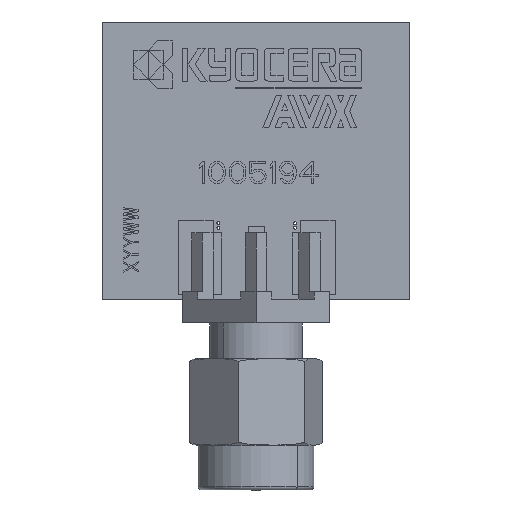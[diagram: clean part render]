
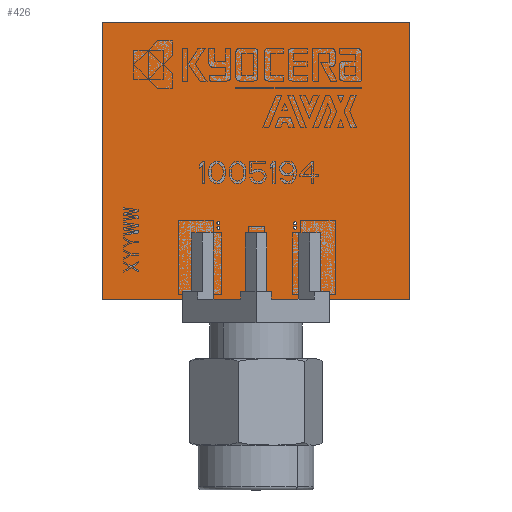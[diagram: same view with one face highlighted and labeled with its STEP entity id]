
A CAD part, top view. The second image highlights one B-rep face of the part: STEP entity #426.
In plain terms, the highlighted planar face has unit normal (0, 0, 1).
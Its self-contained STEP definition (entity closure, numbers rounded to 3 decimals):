
#116=DIRECTION('',(0.,1.,0.));
#117=VECTOR('',#116,18.6);
#118=CARTESIAN_POINT('',(-10.3,-9.3,0.));
#119=LINE('',#118,#117);
#123=DIRECTION('',(1.,0.,0.));
#124=VECTOR('',#123,20.6);
#125=CARTESIAN_POINT('',(-10.3,9.3,0.));
#126=LINE('',#125,#124);
#130=DIRECTION('',(0.,-1.,0.));
#131=VECTOR('',#130,18.6);
#132=CARTESIAN_POINT('',(10.3,9.3,0.));
#133=LINE('',#132,#131);
#137=DIRECTION('',(-1.,0.,0.));
#138=VECTOR('',#137,20.6);
#139=CARTESIAN_POINT('',(10.3,-9.3,0.));
#140=LINE('',#139,#138);
#144=CARTESIAN_POINT('',(-2.52,-4.2,0.));
#145=DIRECTION('',(0.,0.,1.));
#146=DIRECTION('',(1.,0.,0.));
#147=AXIS2_PLACEMENT_3D('',#144,#145,#146);
#152=CARTESIAN_POINT('',(-2.52,-4.2,0.));
#153=DIRECTION('',(0.,0.,1.));
#154=DIRECTION('',(-1.,0.,0.));
#155=AXIS2_PLACEMENT_3D('',#152,#153,#154);
#160=CARTESIAN_POINT('',(-2.52,-4.5,0.));
#161=DIRECTION('',(0.,0.,1.));
#162=DIRECTION('',(1.,0.,0.));
#163=AXIS2_PLACEMENT_3D('',#160,#161,#162);
#168=CARTESIAN_POINT('',(-2.52,-4.5,0.));
#169=DIRECTION('',(0.,0.,1.));
#170=DIRECTION('',(-1.,0.,0.));
#171=AXIS2_PLACEMENT_3D('',#168,#169,#170);
#176=CARTESIAN_POINT('',(2.62,-4.2,0.));
#177=DIRECTION('',(0.,0.,1.));
#178=DIRECTION('',(1.,0.,0.));
#179=AXIS2_PLACEMENT_3D('',#176,#177,#178);
#184=CARTESIAN_POINT('',(2.62,-4.2,0.));
#185=DIRECTION('',(0.,0.,1.));
#186=DIRECTION('',(-1.,0.,0.));
#187=AXIS2_PLACEMENT_3D('',#184,#185,#186);
#192=CARTESIAN_POINT('',(2.62,-4.5,0.));
#193=DIRECTION('',(0.,0.,1.));
#194=DIRECTION('',(1.,0.,0.));
#195=AXIS2_PLACEMENT_3D('',#192,#193,#194);
#200=CARTESIAN_POINT('',(2.62,-4.5,0.));
#201=DIRECTION('',(0.,0.,1.));
#202=DIRECTION('',(-1.,0.,0.));
#203=AXIS2_PLACEMENT_3D('',#200,#201,#202);
#285=CARTESIAN_POINT('',(-10.3,-9.3,0.));
#286=CARTESIAN_POINT('',(-10.3,9.3,0.));
#287=VERTEX_POINT('',#285);
#288=VERTEX_POINT('',#286);
#289=CARTESIAN_POINT('',(10.3,-9.3,0.));
#290=VERTEX_POINT('',#289);
#291=CARTESIAN_POINT('',(10.3,9.3,0.));
#292=VERTEX_POINT('',#291);
#317=CARTESIAN_POINT('',(-2.42,-4.2,0.));
#318=VERTEX_POINT('',#317);
#319=CARTESIAN_POINT('',(-2.62,-4.2,0.));
#320=VERTEX_POINT('',#319);
#321=CARTESIAN_POINT('',(-2.42,-4.5,0.));
#322=VERTEX_POINT('',#321);
#323=CARTESIAN_POINT('',(-2.62,-4.5,0.));
#324=VERTEX_POINT('',#323);
#325=CARTESIAN_POINT('',(2.72,-4.2,0.));
#326=VERTEX_POINT('',#325);
#327=CARTESIAN_POINT('',(2.52,-4.2,0.));
#328=VERTEX_POINT('',#327);
#329=CARTESIAN_POINT('',(2.72,-4.5,0.));
#330=VERTEX_POINT('',#329);
#331=CARTESIAN_POINT('',(2.52,-4.5,0.));
#332=VERTEX_POINT('',#331);
#388=CARTESIAN_POINT('',(0.,0.,0.));
#389=DIRECTION('',(0.,0.,1.));
#390=DIRECTION('',(1.,0.,0.));
#391=AXIS2_PLACEMENT_3D('',#388,#389,#390);
#392=PLANE('',#391);
#393=ORIENTED_EDGE('',*,*,#378,.T.);
#395=ORIENTED_EDGE('',*,*,#394,.T.);
#397=ORIENTED_EDGE('',*,*,#396,.T.);
#399=ORIENTED_EDGE('',*,*,#398,.T.);
#400=EDGE_LOOP('',(#393,#395,#397,#399));
#401=FACE_OUTER_BOUND('',#400,.F.);
#403=ORIENTED_EDGE('',*,*,#402,.T.);
#405=ORIENTED_EDGE('',*,*,#404,.T.);
#406=EDGE_LOOP('',(#403,#405));
#407=FACE_BOUND('',#406,.F.);
#409=ORIENTED_EDGE('',*,*,#408,.T.);
#411=ORIENTED_EDGE('',*,*,#410,.T.);
#412=EDGE_LOOP('',(#409,#411));
#413=FACE_BOUND('',#412,.F.);
#415=ORIENTED_EDGE('',*,*,#414,.T.);
#417=ORIENTED_EDGE('',*,*,#416,.T.);
#418=EDGE_LOOP('',(#415,#417));
#419=FACE_BOUND('',#418,.F.);
#421=ORIENTED_EDGE('',*,*,#420,.T.);
#423=ORIENTED_EDGE('',*,*,#422,.T.);
#424=EDGE_LOOP('',(#421,#423));
#425=FACE_BOUND('',#424,.F.);
#148=CIRCLE('',#147,0.1);
#156=CIRCLE('',#155,0.1);
#164=CIRCLE('',#163,0.1);
#172=CIRCLE('',#171,0.1);
#180=CIRCLE('',#179,0.1);
#188=CIRCLE('',#187,0.1);
#196=CIRCLE('',#195,0.1);
#204=CIRCLE('',#203,0.1);
#378=EDGE_CURVE('',#287,#288,#119,.T.);
#394=EDGE_CURVE('',#288,#292,#126,.T.);
#396=EDGE_CURVE('',#292,#290,#133,.T.);
#398=EDGE_CURVE('',#290,#287,#140,.T.);
#402=EDGE_CURVE('',#318,#320,#148,.T.);
#404=EDGE_CURVE('',#320,#318,#156,.T.);
#408=EDGE_CURVE('',#322,#324,#164,.T.);
#410=EDGE_CURVE('',#324,#322,#172,.T.);
#414=EDGE_CURVE('',#326,#328,#180,.T.);
#416=EDGE_CURVE('',#328,#326,#188,.T.);
#420=EDGE_CURVE('',#330,#332,#196,.T.);
#422=EDGE_CURVE('',#332,#330,#204,.T.);
#426=ADVANCED_FACE('',(#401,#407,#413,#419,#425),#392,.T.);
